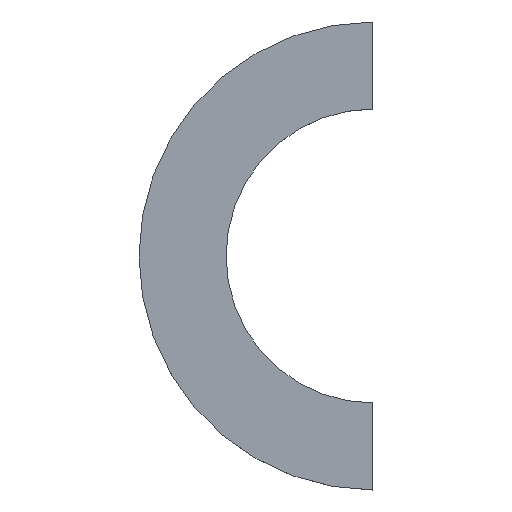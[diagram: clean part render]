
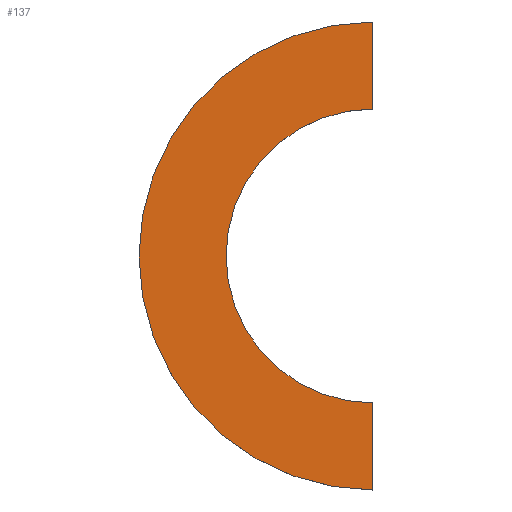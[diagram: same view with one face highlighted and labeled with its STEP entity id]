
A CAD part, top view. The second image highlights one B-rep face of the part: STEP entity #137.
In plain terms, the highlighted planar face has unit normal (0, 0, 1).
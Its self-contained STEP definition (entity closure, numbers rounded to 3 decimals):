
#21 = EDGE_CURVE('',#22,#24,#26,.T.);
#22 = VERTEX_POINT('',#23);
#23 = CARTESIAN_POINT('',(0.,4.8,8.));
#24 = VERTEX_POINT('',#25);
#25 = CARTESIAN_POINT('',(0.,-4.8,8.));
#26 = SURFACE_CURVE('',#27,(#32,#44),.PCURVE_S1.);
#27 = CIRCLE('',#28,4.8);
#28 = AXIS2_PLACEMENT_3D('',#29,#30,#31);
#29 = CARTESIAN_POINT('',(0.,0.,8.));
#30 = DIRECTION('',(0.,0.,1.));
#31 = DIRECTION('',(1.,0.,-0.));
#32 = PCURVE('',#33,#38);
#33 = CYLINDRICAL_SURFACE('',#34,4.8);
#34 = AXIS2_PLACEMENT_3D('',#35,#36,#37);
#35 = CARTESIAN_POINT('',(0.,0.,7.6));
#36 = DIRECTION('',(0.,0.,1.));
#37 = DIRECTION('',(1.,0.,-0.));
#38 = DEFINITIONAL_REPRESENTATION('',(#39),#43);
#39 = LINE('',#40,#41);
#40 = CARTESIAN_POINT('',(0.,0.4));
#41 = VECTOR('',#42,1.);
#42 = DIRECTION('',(1.,0.));
#43 = ( GEOMETRIC_REPRESENTATION_CONTEXT(2) 
PARAMETRIC_REPRESENTATION_CONTEXT() REPRESENTATION_CONTEXT('2D SPACE',''
  ) );
#44 = PCURVE('',#45,#50);
#45 = PLANE('',#46);
#46 = AXIS2_PLACEMENT_3D('',#47,#48,#49);
#47 = CARTESIAN_POINT('',(0.,0.,8.));
#48 = DIRECTION('',(0.,0.,1.));
#49 = DIRECTION('',(1.,0.,-0.));
#50 = DEFINITIONAL_REPRESENTATION('',(#51),#55);
#51 = CIRCLE('',#52,4.8);
#52 = AXIS2_PLACEMENT_2D('',#53,#54);
#53 = CARTESIAN_POINT('',(0.,0.));
#54 = DIRECTION('',(1.,0.));
#55 = ( GEOMETRIC_REPRESENTATION_CONTEXT(2) 
PARAMETRIC_REPRESENTATION_CONTEXT() REPRESENTATION_CONTEXT('2D SPACE',''
  ) );
#72 = PLANE('',#73);
#73 = AXIS2_PLACEMENT_3D('',#74,#75,#76);
#74 = CARTESIAN_POINT('',(0.,-60.,-70.));
#75 = DIRECTION('',(1.,0.,0.));
#76 = DIRECTION('',(0.,0.,1.));
#126 = PLANE('',#127);
#127 = AXIS2_PLACEMENT_3D('',#128,#129,#130);
#128 = CARTESIAN_POINT('',(0.,-60.,-70.));
#129 = DIRECTION('',(1.,0.,0.));
#130 = DIRECTION('',(0.,0.,1.));
#137 = ADVANCED_FACE('',(#138),#45,.T.);
#138 = FACE_BOUND('',#139,.T.);
#139 = EDGE_LOOP('',(#140,#163,#164,#187));
#140 = ORIENTED_EDGE('',*,*,#141,.T.);
#141 = EDGE_CURVE('',#142,#22,#144,.T.);
#142 = VERTEX_POINT('',#143);
#143 = CARTESIAN_POINT('',(0.,3.015,8.));
#144 = SURFACE_CURVE('',#145,(#149,#156),.PCURVE_S1.);
#145 = LINE('',#146,#147);
#146 = CARTESIAN_POINT('',(0.,-30.,8.));
#147 = VECTOR('',#148,1.);
#148 = DIRECTION('',(0.,1.,0.));
#149 = PCURVE('',#45,#150);
#150 = DEFINITIONAL_REPRESENTATION('',(#151),#155);
#151 = LINE('',#152,#153);
#152 = CARTESIAN_POINT('',(0.,-30.));
#153 = VECTOR('',#154,1.);
#154 = DIRECTION('',(0.,1.));
#155 = ( GEOMETRIC_REPRESENTATION_CONTEXT(2) 
PARAMETRIC_REPRESENTATION_CONTEXT() REPRESENTATION_CONTEXT('2D SPACE',''
  ) );
#156 = PCURVE('',#72,#157);
#157 = DEFINITIONAL_REPRESENTATION('',(#158),#162);
#158 = LINE('',#159,#160);
#159 = CARTESIAN_POINT('',(78.,-30.));
#160 = VECTOR('',#161,1.);
#161 = DIRECTION('',(0.,-1.));
#162 = ( GEOMETRIC_REPRESENTATION_CONTEXT(2) 
PARAMETRIC_REPRESENTATION_CONTEXT() REPRESENTATION_CONTEXT('2D SPACE',''
  ) );
#163 = ORIENTED_EDGE('',*,*,#21,.T.);
#164 = ORIENTED_EDGE('',*,*,#165,.T.);
#165 = EDGE_CURVE('',#24,#166,#168,.T.);
#166 = VERTEX_POINT('',#167);
#167 = CARTESIAN_POINT('',(0.,-3.015,8.));
#168 = SURFACE_CURVE('',#169,(#173,#180),.PCURVE_S1.);
#169 = LINE('',#170,#171);
#170 = CARTESIAN_POINT('',(0.,-30.,8.));
#171 = VECTOR('',#172,1.);
#172 = DIRECTION('',(0.,1.,0.));
#173 = PCURVE('',#45,#174);
#174 = DEFINITIONAL_REPRESENTATION('',(#175),#179);
#175 = LINE('',#176,#177);
#176 = CARTESIAN_POINT('',(0.,-30.));
#177 = VECTOR('',#178,1.);
#178 = DIRECTION('',(0.,1.));
#179 = ( GEOMETRIC_REPRESENTATION_CONTEXT(2) 
PARAMETRIC_REPRESENTATION_CONTEXT() REPRESENTATION_CONTEXT('2D SPACE',''
  ) );
#180 = PCURVE('',#126,#181);
#181 = DEFINITIONAL_REPRESENTATION('',(#182),#186);
#182 = LINE('',#183,#184);
#183 = CARTESIAN_POINT('',(78.,-30.));
#184 = VECTOR('',#185,1.);
#185 = DIRECTION('',(0.,-1.));
#186 = ( GEOMETRIC_REPRESENTATION_CONTEXT(2) 
PARAMETRIC_REPRESENTATION_CONTEXT() REPRESENTATION_CONTEXT('2D SPACE',''
  ) );
#187 = ORIENTED_EDGE('',*,*,#188,.F.);
#188 = EDGE_CURVE('',#142,#166,#189,.T.);
#189 = SURFACE_CURVE('',#190,(#195,#202),.PCURVE_S1.);
#190 = CIRCLE('',#191,3.015);
#191 = AXIS2_PLACEMENT_3D('',#192,#193,#194);
#192 = CARTESIAN_POINT('',(0.,0.,8.));
#193 = DIRECTION('',(0.,0.,1.));
#194 = DIRECTION('',(1.,0.,-0.));
#195 = PCURVE('',#45,#196);
#196 = DEFINITIONAL_REPRESENTATION('',(#197),#201);
#197 = CIRCLE('',#198,3.015);
#198 = AXIS2_PLACEMENT_2D('',#199,#200);
#199 = CARTESIAN_POINT('',(0.,0.));
#200 = DIRECTION('',(1.,0.));
#201 = ( GEOMETRIC_REPRESENTATION_CONTEXT(2) 
PARAMETRIC_REPRESENTATION_CONTEXT() REPRESENTATION_CONTEXT('2D SPACE',''
  ) );
#202 = PCURVE('',#203,#208);
#203 = CYLINDRICAL_SURFACE('',#204,3.015);
#204 = AXIS2_PLACEMENT_3D('',#205,#206,#207);
#205 = CARTESIAN_POINT('',(0.,0.,7.59));
#206 = DIRECTION('',(0.,0.,1.));
#207 = DIRECTION('',(1.,0.,-0.));
#208 = DEFINITIONAL_REPRESENTATION('',(#209),#213);
#209 = LINE('',#210,#211);
#210 = CARTESIAN_POINT('',(0.,0.41));
#211 = VECTOR('',#212,1.);
#212 = DIRECTION('',(1.,0.));
#213 = ( GEOMETRIC_REPRESENTATION_CONTEXT(2) 
PARAMETRIC_REPRESENTATION_CONTEXT() REPRESENTATION_CONTEXT('2D SPACE',''
  ) );
